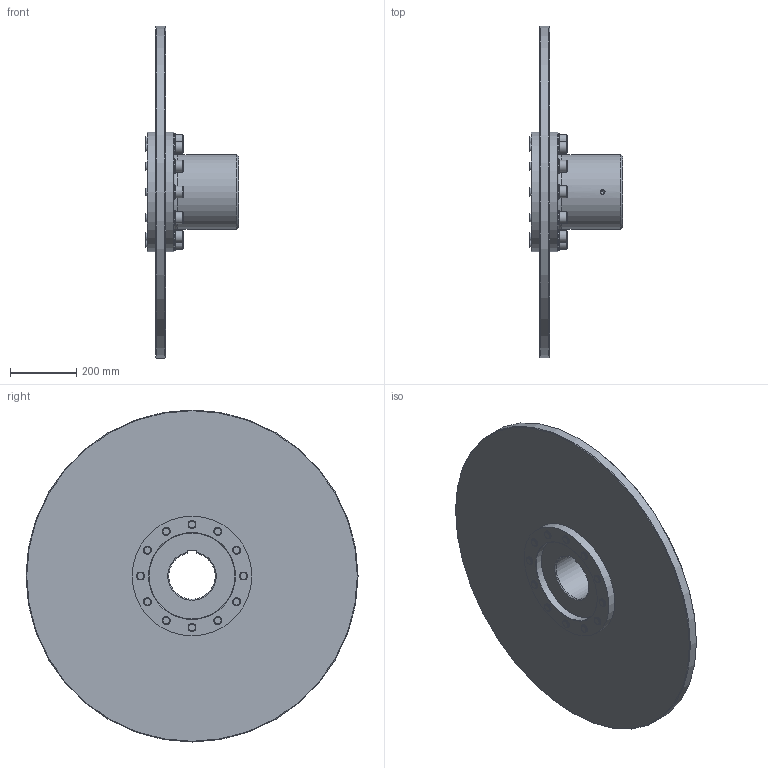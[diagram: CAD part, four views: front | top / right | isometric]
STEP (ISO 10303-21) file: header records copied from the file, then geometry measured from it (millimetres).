
FILE_DESCRIPTION(/* description */ (''),/* implementation_level */ '2;1');
FILE_NAME(/* name */ 'C:\Users\milman01\Desktop\step file\xxxxxx\46826.stp',/* time_stamp */ '2017-03-15T12:58:31+01:00',/* author */ ('milman01'),/* organization */ ('Hillmar Industries Ltd.'),/* preprocessor_version */ 'ST-DEVELOPER v16.1',/* originating_system */ 'Autodesk Inventor 2016',/* authorisation */ '');
FILE_SCHEMA (('AUTOMOTIVE_DESIGN { 1 0 10303 214 3 1 1 }'));
Length unit declared in the file: millimetre
Products named in the file (1): 46826_Shrinkwrap_1
Bounding box: 281 x 1000 x 1000 mm (x, y, z)
Volume: 31548462.8 mm3; surface area: 2127137.5 mm2
Topology: 1 solids, 15 shells, 327 faces, 692 edges, 446 vertices
Faces by surface type: plane 168, cylinder 83, cone 62, torus 14
Full cylindrical faces by diameter (mm): 13.835 x1, 24 x24, 25 x12, 26 x12, 36 x12, 44 x12, 225 x1, 260 x3, 360 x2, 1000 x1
Entity records: 7875 total; most frequent: CARTESIAN_POINT 1407, DIRECTION 1292, ORIENTED_EDGE 972, EDGE_LOOP 562, AXIS2_PLACEMENT_3D 560, EDGE_CURVE 486, VERTEX_POINT 394, STYLED_ITEM 328
